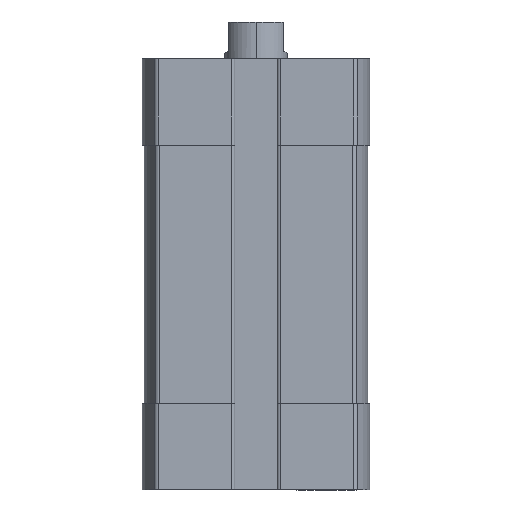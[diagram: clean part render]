
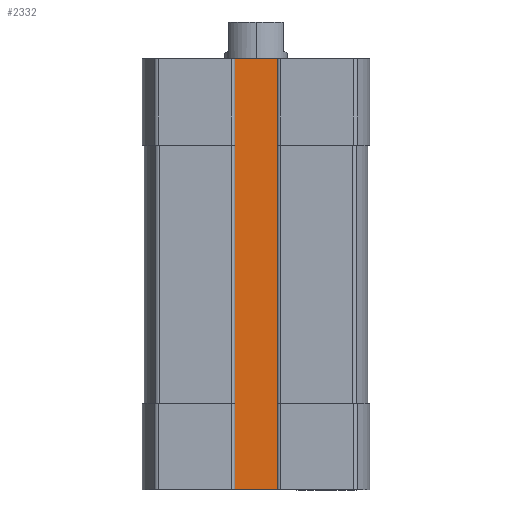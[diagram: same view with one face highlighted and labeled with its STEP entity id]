
A CAD part, left-side view. The second image highlights one B-rep face of the part: STEP entity #2332.
In plain terms, the highlighted planar face has unit normal (-1, 0, 0).
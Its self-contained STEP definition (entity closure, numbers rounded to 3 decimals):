
#260 = ORIENTED_EDGE ( 'NONE', *, *, #9746, .T. ) ;
#364 = VECTOR ( 'NONE', #11151, 1000. ) ;
#698 = CARTESIAN_POINT ( 'NONE',  ( -9.3, 3., -55. ) ) ;
#1222 = CARTESIAN_POINT ( 'NONE',  ( -9.3, -3., -55. ) ) ;
#1522 = DIRECTION ( 'NONE',  ( 0., 0., -1. ) ) ;
#1615 = FACE_OUTER_BOUND ( 'NONE', #11428, .T. ) ;
#1712 = ORIENTED_EDGE ( 'NONE', *, *, #2011, .F. ) ;
#1816 = VERTEX_POINT ( 'NONE', #1222 ) ;
#2011 = EDGE_CURVE ( 'NONE', #2734, #10984, #9391, .T. ) ;
#2041 = CARTESIAN_POINT ( 'NONE',  ( -9.3, 3., 0. ) ) ;
#2209 = EDGE_CURVE ( 'NONE', #5172, #1816, #2986, .T. ) ;
#2332 = ADVANCED_FACE ( 'NONE', ( #1615 ), #4271, .T. ) ;
#2734 = VERTEX_POINT ( 'NONE', #2041 ) ;
#2986 = LINE ( 'NONE', #4015, #364 ) ;
#3800 = EDGE_CURVE ( 'NONE', #2734, #5172, #9891, .T. ) ;
#4015 = CARTESIAN_POINT ( 'NONE',  ( -9.3, 3., -55. ) ) ;
#4271 = PLANE ( 'NONE',  #4973 ) ;
#4713 = CARTESIAN_POINT ( 'NONE',  ( -9.3, -3., 0. ) ) ;
#4973 = AXIS2_PLACEMENT_3D ( 'NONE', #698, #5183, #11385 ) ;
#5172 = VERTEX_POINT ( 'NONE', #11058 ) ;
#5183 = DIRECTION ( 'NONE',  ( -1., 0., 0. ) ) ;
#5196 = VECTOR ( 'NONE', #1522, 1000. ) ;
#5207 = CARTESIAN_POINT ( 'NONE',  ( -9.3, -3.1, 0. ) ) ;
#6553 = DIRECTION ( 'NONE',  ( 0., 0., 1. ) ) ;
#6993 = ORIENTED_EDGE ( 'NONE', *, *, #3800, .T. ) ;
#7457 = CARTESIAN_POINT ( 'NONE',  ( -9.3, -3., -55. ) ) ;
#7825 = CARTESIAN_POINT ( 'NONE',  ( -9.3, 3., -55. ) ) ;
#7871 = DIRECTION ( 'NONE',  ( 0., -1., 0. ) ) ;
#8754 = VECTOR ( 'NONE', #6553, 1000. ) ;
#9115 = VECTOR ( 'NONE', #7871, 1000. ) ;
#9391 = LINE ( 'NONE', #5207, #9115 ) ;
#9746 = EDGE_CURVE ( 'NONE', #1816, #10984, #10834, .T. ) ;
#9891 = LINE ( 'NONE', #7825, #5196 ) ;
#10159 = ORIENTED_EDGE ( 'NONE', *, *, #2209, .T. ) ;
#10834 = LINE ( 'NONE', #7457, #8754 ) ;
#10984 = VERTEX_POINT ( 'NONE', #4713 ) ;
#11058 = CARTESIAN_POINT ( 'NONE',  ( -9.3, 3., -55. ) ) ;
#11151 = DIRECTION ( 'NONE',  ( 0., -1., 0. ) ) ;
#11385 = DIRECTION ( 'NONE',  ( 0., 0., 1. ) ) ;
#11428 = EDGE_LOOP ( 'NONE', ( #10159, #260, #1712, #6993 ) ) ;
